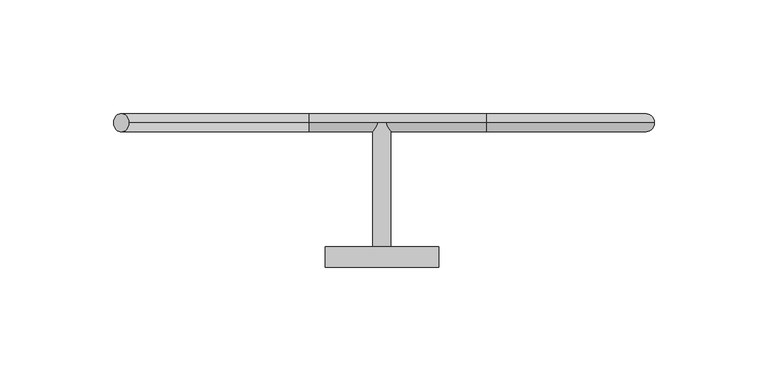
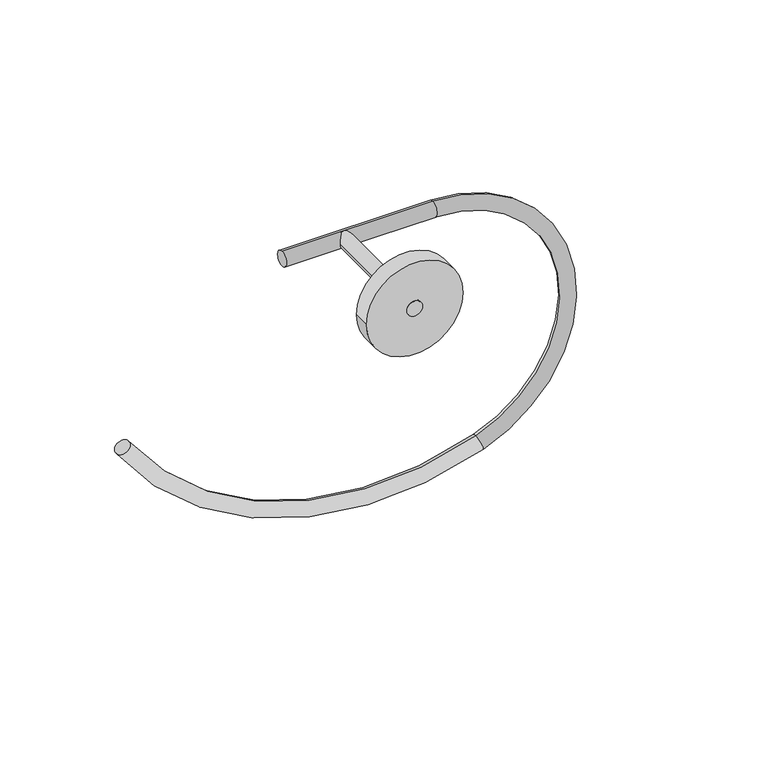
"""IFC4 building model written with IfcOpenShell, lengths in millimetres: flow terminal geometry, Toallero Dica 1009 : Toallero Dica manos 1009."""

from ifc_helpers import new_model, si_unit, point, frame, frame_2d, origin, place, context, project, spatial, circle_curve, ellipse_curve, trimmed, segment, composite_curve, outline, extrude, source, transform, mapped, element, save
from ifc_brep_helpers import plane_surface, cylinder_surface, revolved_surface, advanced_brep


def flow_terminal_4524fc21(model_context):
    return source(origin(), model_context, "Body", "SolidModel", [
        extrude(outline(composite_curve([segment(trimmed(circle_curve(frame_2d((0.0, 125.0)), 4.0), [point((0.0, 121.0))], [point((0.0, 129.0))], False, "CARTESIAN"), True, "CONTINUOUS"), segment(trimmed(circle_curve(frame_2d((0.0, 125.0)), 4.0), [point((0.0, 129.0))], [point((0.0, 121.0))], False, "CARTESIAN"), True, "CONTINUOUS")], self_intersect=False)), frame((0.0, 90.0, 0.0), z_axis=(0.0, 1.0, 0.0), x_axis=(0.0, 0.0, 1.0)), (0.0, 0.0, 1.0), 63.3830496),
        extrude(outline(composite_curve([segment(trimmed(circle_curve(frame_2d((0.0, 125.0)), 25.0), [point((0.0, 100.0))], [point((0.0, 150.0))], False, "CARTESIAN"), True, "CONTINUOUS"), segment(trimmed(circle_curve(frame_2d((0.0, 125.0)), 25.0), [point((0.0, 150.0))], [point((0.0, 100.0))], False, "CARTESIAN"), True, "CONTINUOUS")], self_intersect=False)), frame((0.0, 90.0, 0.0), z_axis=(0.0, 1.0, 0.0), x_axis=(0.0, 0.0, 1.0)), (0.0, 0.0, 1.0), 8.9918697),
        advanced_brep(
        [(92.9954104, 153.5, -4.0), (92.9954104, 153.5, 4.0), (170.9338842, 153.5, -4.0), (170.9338842, 153.5, 4.0), (196.0697012, 153.5, -139.6002206), (193.3523155, 153.5, -132.0758724), (13.6299481, 153.5, -72.0247315), (6.935123, 153.5, -76.4041512)],
        [
            (0, 1, circle_curve(frame((92.9954104, 153.5, 0.0), z_axis=(-1.0, 0.0, 0.0), x_axis=(0.0, 0.0, 1.0)), 4.0)),
            (1, 0, circle_curve(frame((92.9954104, 153.5, 0.0), z_axis=(-1.0, 0.0, 0.0), x_axis=(0.0, 0.0, 1.0)), 4.0)),
            (0, 2),
            (2, 3, circle_curve(frame((170.9338842, 153.5, 0.0), z_axis=(-1.0, 0.0, 0.0), x_axis=(0.0, 0.0, 1.0)), 4.0)),
            (3, 1),
            (3, 2, circle_curve(frame((170.9338842, 153.5, 0.0), z_axis=(-1.0, 0.0, 0.0), x_axis=(0.0, 0.0, 1.0)), 4.0)),
            (4, 3, circle_curve(frame((170.9338842, 153.5, -70.0), z_axis=(0.0, -1.0, 0.0), x_axis=(0.0, 0.0, 1.0)), 74.0)),
            (2, 5, circle_curve(frame((170.9338842, 153.5, -70.0), z_axis=(0.0, 1.0, 0.0), x_axis=(0.0, 0.0, 1.0)), 66.0)),
            (5, 4, circle_curve(frame((194.7110083, 153.5, -135.8380465), z_axis=(0.9405435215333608, 0.0, 0.33967320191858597), x_axis=(0.33967320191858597, 0.0, -0.9405435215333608)), 4.0)),
            (4, 5, circle_curve(frame((194.7110083, 153.5, -135.8380465), z_axis=(0.9405435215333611, 0.0, 0.33967320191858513), x_axis=(0.33967320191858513, 0.0, -0.9405435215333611)), 4.0)),
            (6, 7, circle_curve(frame((10.2825356, 153.5, -74.2144413), z_axis=(-0.5474274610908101, 0.0, 0.8368531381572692), x_axis=(-0.8368531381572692, 0.0, -0.5474274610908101)), 4.0)),
            (7, 6, circle_curve(frame((10.2825356, 153.5, -74.2144413), z_axis=(-0.5474274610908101, 0.0, 0.8368531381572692), x_axis=(-0.8368531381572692, 0.0, -0.5474274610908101)), 4.0)),
            (7, 4, circle_curve(frame((141.4649332, 153.5, 11.5985211), z_axis=(0.0, -1.0, 0.0), x_axis=(0.33967320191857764, 0.0, -0.9405435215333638)), 160.7567733)),
            (5, 6, circle_curve(frame((141.4649332, 153.5, 11.5985211), z_axis=(0.0, 1.0, 0.0), x_axis=(0.33967320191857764, 0.0, -0.9405435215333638)), 152.7567733)),
        ],
        [
            plane_surface(frame((92.9954104, 90.0, 0.0), z_axis=(-1.0, 0.0, 0.0), x_axis=(0.0, -1.0, 0.0))),
            cylinder_surface(frame((92.9954104, 153.5, 0.0), z_axis=(-1.0, 0.0, 0.0), x_axis=(0.0, 0.0, 1.0)), 4.0),
            revolved_surface(trimmed(ellipse_curve(frame((170.9338842, 153.5, 0.0), z_axis=(-1.0, 0.0, 0.0), x_axis=(0.0, 0.0, 1.0)), 4.0, 4.0), [point((170.9338842, 153.5, -4.0))], [point((170.9338842, 153.5, 4.0))], True, "CARTESIAN"), (170.9338842, 90.0, -70.0), (0.0, 1.0, 0.0)),
            revolved_surface(trimmed(ellipse_curve(frame((170.9338842, 153.5, 0.0), z_axis=(-1.0, 0.0, 0.0), x_axis=(0.0, 0.0, 1.0)), 4.0, 4.0), [point((170.9338842, 153.5, 4.0))], [point((170.9338842, 153.5, -4.0))], True, "CARTESIAN"), (170.9338842, 90.0, -70.0), (0.0, 1.0, 0.0)),
            plane_surface(frame((10.2825356, 90.0, -74.2144413), z_axis=(-0.5474274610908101, 0.0, 0.8368531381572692), x_axis=(0.0, -1.0, 0.0))),
            revolved_surface(trimmed(ellipse_curve(frame((194.7110083, 153.5, -135.8380465), z_axis=(0.9405435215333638, 0.0, 0.33967320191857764), x_axis=(0.33967320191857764, 0.0, -0.9405435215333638)), 4.0, 4.0), [point((193.3523155, 153.5, -132.0758724))], [point((196.0697012, 153.5, -139.6002206))], True, "CARTESIAN"), (141.4649332, 90.0, 11.5985211), (0.0, 1.0, 0.0)),
            revolved_surface(trimmed(ellipse_curve(frame((194.7110083, 153.5, -135.8380465), z_axis=(0.9405435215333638, 0.0, 0.33967320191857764), x_axis=(0.33967320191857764, 0.0, -0.9405435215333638)), 4.0, 4.0), [point((196.0697012, 153.5, -139.6002206))], [point((193.3523155, 153.5, -132.0758724))], True, "CARTESIAN"), (141.4649332, 90.0, 11.5985211), (0.0, 1.0, 0.0)),
        ],
        [
            (0, [[1, 2]]),
            (1, [[-1, 3, 4, 5]]),
            (1, [[-2, -5, 6, -3]]),
            (2, [[7, -4, 8, 9]]),
            (3, [[-8, -6, -7, 10]]),
            (4, [[11, 12]]),
            (5, [[13, -9, 14, -12]]),
            (6, [[-14, -10, -13, -11]]),
        ],
    ),
    ])


if __name__ == "__main__":
    model = new_model("IFC4")
    model_context = context("Model", 3, world=origin())
    ifc_project = project(units=[si_unit("LENGTHUNIT", "METRE", prefix="MILLI")], contexts=[model_context])
    site = spatial("IfcSite", under=ifc_project)
    building = spatial("IfcBuilding", under=site)
    placement = place(None, origin())
    flow_terminal_shape = flow_terminal_4524fc21(model_context)
    element("IfcFlowTerminal", 1, ObjectType="Toallero Dica 1009 : Toallero Dica manos 1009", at=placement, inside=building, context=model_context, shape_type="MappedRepresentation", body=[
        mapped(flow_terminal_shape, transform((0.0, 0.0, 0.0), x_axis=(1.0, 0.0, 0.0), y_axis=(0.0, 1.0, 0.0), z_axis=(0.0, 0.0, 1.0))),
    ])
    save(model, "model.ifc")
